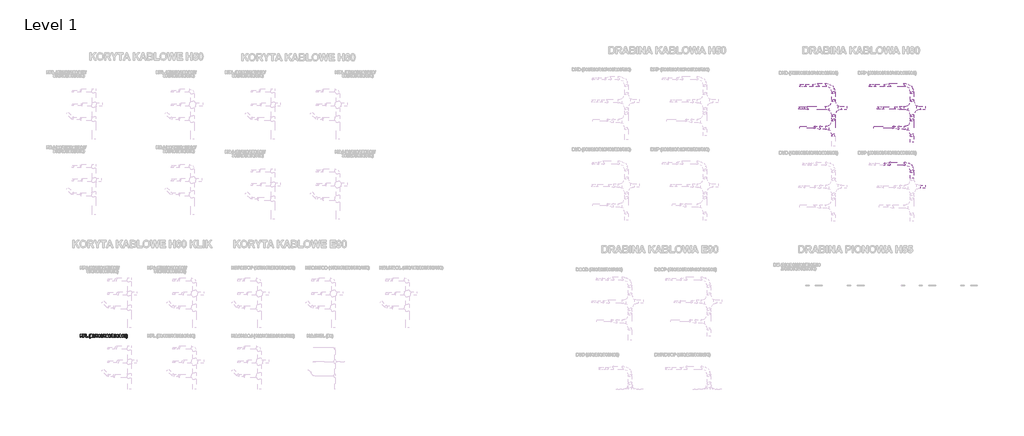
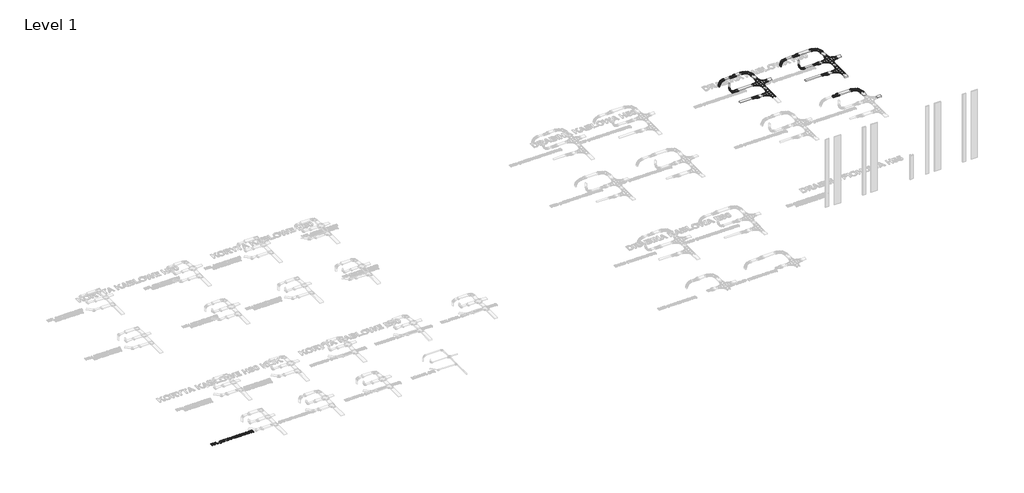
# One storey, part 6 of 42: 25 cable carrier segments, 18 cable carrier fittings, 1 proxy.
"""IFC4 building model written with IfcOpenShell, lengths in millimetres."""

from ifc_helpers import new_model, si_unit, frame, origin, origin_with_axes, place, context, project, spatial, polyline, outline, extrude, transform, mapped, element, save
from components import cable_carrier_fitting_1_5_mm_3523910d, cable_carrier_fitting_1_5_mm_19f47176, cable_carrier_fitting_1_5_mm_ccf48cd3, cable_carrier_fitting_1_5_mm_2af02ecb, cable_carrier_fitting_1_5_mm_74426db5, cable_carrier_fitting_1_5_mm_0168b917, cable_carrier_fitting_1_5_mm_cc8ef015, cable_carrier_fitting_1_5_mm_7721eeaa, cable_carrier_fitting_1_5_mm_8b0a73e9, cable_carrier_fitting_1_5_mm_c053843e

model = new_model("IFC4")

# Units and contexts
model_context = context("Model", 3, world=origin())
ifc_project = project(units=[si_unit("LENGTHUNIT", "METRE", prefix="MILLI")], contexts=[model_context])

# Site, building, storey
site = spatial("IfcSite", under=ifc_project)
building = spatial("IfcBuilding", under=site)
storey = spatial("IfcBuildingStorey", under=building, Name="Level 1", Elevation=0.0)

# Proxy
placement = place(None, origin())
element("IfcBuildingElementProxy", 1, Name="300mm Arial 2", ObjectType="300mm Arial 2", at=placement, inside=storey, context=model_context, shape_type="SweptSolid", body=[
    extrude(outline(polyline([(-29314.3228423, -1533.7239141), (-29314.3228423, -1278.6590641), (-29265.7390614, -1278.6590641), (-29265.7390614, -1394.9311857), (-29156.299034, -1278.6590641), (-29089.6228554, -1278.6590641), (-29186.157816, -1376.0796665), (-29085.574207, -1533.7239141), (-29142.381805, -1533.7239141), (-29217.7246216, -1408.0260329), (-29265.7390614, -1456.5465537), (-29265.7390614, -1533.7239141), (-29314.3228423, -1533.7239141)])), origin_with_axes(), (0.0, 0.0, 1.0), 10.0),
    extrude(outline(polyline([(-29059.2579923, -1533.7239141), (-29059.2579923, -1278.6590641), (-28885.1661106, -1278.6590641), (-28885.1661106, -1323.1941966), (-29010.6742114, -1323.1941966), (-29010.6742114, -1379.8752744), (-28901.3607042, -1379.8752744), (-28901.3607042, -1424.4104069), (-29010.6742114, -1424.4104069), (-29010.6742114, -1533.7239141), (-29059.2579923, -1533.7239141)])), origin_with_axes(), (0.0, 0.0, 1.0), 10.0),
    extrude(outline(polyline([(-28844.6796265, -1533.7239141), (-28844.6796265, -1278.6590641), (-28796.0958455, -1278.6590641), (-28796.0958455, -1489.1887815), (-28666.5390963, -1489.1887815), (-28666.5390963, -1533.7239141), (-28844.6796265, -1533.7239141)])), origin_with_axes(), (0.0, 0.0, 1.0), 10.0),
    extrude(outline(polyline([(-28456.0093789, -1602.5509371), (-28488.3985662, -1602.5509371), (-28511.0694158, -1562.8789271), (-28527.5882176, -1521.672859), (-28537.670301, -1480.3719007), (-28541.0309955, -1440.4152202), (-28536.919087, -1393.0175667), (-28524.5833613, -1348.2452087), (-28508.3887677, -1311.9655233), (-28488.3985662, -1278.6590641), (-28456.0093789, -1278.6590641), (-28473.5719728, -1325.8985672), (-28484.6345883, -1365.5152246), (-28490.494058, -1402.3958812), (-28492.4472146, -1441.4273823), (-28487.7659648, -1498.07683), (-28474.9241582, -1553.1447744), (-28456.0093789, -1602.5509371)])), origin_with_axes(), (0.0, 0.0, 1.0), 10.0),
    extrude(outline(polyline([(-28423.6201916, -1461.9236649), (-28379.085059, -1456.7995942), (-28374.9415204, -1471.8713205), (-28366.6860733, -1483.4321096), (-28355.5839202, -1490.7860999), (-28342.9002638, -1493.2374299), (-28328.7062718, -1490.635857), (-28316.8687197, -1482.8311383), (-28308.8742206, -1469.7916437), (-28306.2093876, -1451.4857432), (-28308.6844402, -1434.3264325), (-28316.1095982, -1422.0697821), (-28327.5043293, -1414.7157918), (-28341.8881017, -1412.2644617), (-28360.7079908, -1417.3252722), (-28377.4402956, -1432.5077038), (-28419.5715431, -1426.2449507), (-28391.2310043, -1282.7077125), (-28269.7715519, -1282.7077125), (-28269.7715519, -1331.2914934), (-28351.9464626, -1331.2914934), (-28361.751783, -1377.6611698), (-28346.2688658, -1370.2122893), (-28330.4380179, -1367.7293292), (-28302.3188895, -1373.4780936), (-28278.8177507, -1390.7243869), (-28262.9236426, -1417.1433993), (-28257.6256066, -1450.410321), (-28262.0380008, -1479.3360161), (-28275.2751833, -1505.0038144), (-28288.492597, -1519.3401417), (-28304.0427281, -1529.5803755), (-28321.9255765, -1535.7245157), (-28342.1411423, -1537.7725625), (-28373.1465142, -1532.6326768), (-28397.841688, -1517.2130198), (-28415.0563513, -1493.1109097), (-28423.6201916, -1461.9236649)])), origin_with_axes(), (0.0, 0.0, 1.0), 10.0),
    extrude(outline(polyline([(-28148.3120995, -1278.6590641), (-28131.1804652, -1280.3038275), (-28116.0336174, -1285.2381177), (-28102.8715563, -1293.4619348), (-28091.6942819, -1304.9752788), (-28081.0389035, -1323.1032602), (-28073.4279189, -1346.3632198), (-28068.8613282, -1374.7551575), (-28067.3391313, -1408.2790734), (-28068.8692357, -1441.7713593), (-28073.459549, -1470.1949271), (-28081.1100711, -1493.5497768), (-28091.8208021, -1511.8359086), (-28102.942724, -1523.1831947), (-28116.0652475, -1531.288399), (-28131.1883727, -1536.1515216), (-28148.3120995, -1537.7725625), (-28165.6196761, -1535.9933713), (-28181.1678303, -1530.6557977), (-28194.956562, -1521.7598417), (-28206.9858714, -1509.3055033), (-28216.7417698, -1492.2845742), (-28223.7102687, -1469.688846), (-28227.891368, -1441.5183187), (-28229.2850678, -1407.7729924), (-28227.7549633, -1374.4467644), (-28223.16465, -1346.1418093), (-28215.5141279, -1322.8581272), (-28204.8033969, -1304.595718), (-28193.681475, -1293.2484319), (-28180.5589515, -1285.1432276), (-28165.4358263, -1280.2801049), (-28148.3120995, -1278.6590641)]), holes=[polyline([(-28148.3120995, -1323.1941966), (-28164.5066932, -1328.5396777), (-28170.8327063, -1336.0122808), (-28175.513956, -1347.7391276), (-28179.4044541, -1371.8886828), (-28180.7012868, -1408.2790734), (-28179.5467894, -1444.1871055), (-28176.0832972, -1466.7630649), (-28170.8564288, -1480.0160625), (-28164.411803, -1487.955209), (-28148.3120995, -1493.2374299), (-28132.1175059, -1487.8919488), (-28125.7914927, -1480.4193458), (-28121.110243, -1468.6924989), (-28117.2197449, -1444.669464), (-28115.9229122, -1408.2790734), (-28117.0774096, -1372.4105789), (-28120.5409018, -1349.826712), (-28125.7677702, -1336.5341768), (-28132.212396, -1328.5396777), (-28148.3120995, -1323.1941966)])]), origin_with_axes(), (0.0, 0.0, 1.0), 10.0),
    extrude(outline(polyline([(-28052.0301794, -1533.7239141), (-27991.3004533, -1278.6590641), (-27953.9769757, -1278.6590641), (-28014.7067019, -1533.7239141), (-28052.0301794, -1533.7239141)])), origin_with_axes(), (0.0, 0.0, 1.0), 10.0),
    extrude(outline(polyline([(-27816.3229297, -1533.7239141), (-27864.9067106, -1533.7239141), (-27864.9067106, -1351.4082152), (-27892.9625789, -1375.2889149), (-27925.6364368, -1392.0212196), (-27925.6364368, -1343.4374387), (-27906.1681314, -1334.3517023), (-27885.0866926, -1319.6199992), (-27866.6305492, -1300.6024222), (-27855.0381301, -1278.6590641), (-27816.3229297, -1278.6590641), (-27816.3229297, -1533.7239141)])), origin_with_axes(), (0.0, 0.0, 1.0), 10.0),
    extrude(outline(polyline([(-27662.47429, -1278.6590641), (-27645.3426557, -1280.3038275), (-27630.1958079, -1285.2381177), (-27617.0337468, -1293.4619348), (-27605.8564724, -1304.9752788), (-27595.201094, -1323.1032602), (-27587.5901094, -1346.3632198), (-27583.0235187, -1374.7551575), (-27581.5013217, -1408.2790734), (-27583.0314262, -1441.7713593), (-27587.6217395, -1470.1949271), (-27595.2722616, -1493.5497768), (-27605.9829926, -1511.8359086), (-27617.1049145, -1523.1831947), (-27630.227438, -1531.288399), (-27645.3505632, -1536.1515216), (-27662.47429, -1537.7725625), (-27679.7818666, -1535.9933713), (-27695.3300208, -1530.6557977), (-27709.1187525, -1521.7598417), (-27721.1480619, -1509.3055033), (-27730.9039603, -1492.2845742), (-27737.8724592, -1469.688846), (-27742.0535585, -1441.5183187), (-27743.4472582, -1407.7729924), (-27741.9171538, -1374.4467644), (-27737.3268405, -1346.1418093), (-27729.6763184, -1322.8581272), (-27718.9655874, -1304.595718), (-27707.8436655, -1293.2484319), (-27694.721142, -1285.1432276), (-27679.5980168, -1280.2801049), (-27662.47429, -1278.6590641)]), holes=[polyline([(-27662.47429, -1323.1941966), (-27678.6688836, -1328.5396777), (-27684.9948968, -1336.0122808), (-27689.6761465, -1347.7391276), (-27693.5666446, -1371.8886828), (-27694.8634773, -1408.2790734), (-27693.7089799, -1444.1871055), (-27690.2454877, -1466.7630649), (-27685.0186193, -1480.0160625), (-27678.5739935, -1487.955209), (-27662.47429, -1493.2374299), (-27646.2796963, -1487.8919488), (-27639.9536832, -1480.4193458), (-27635.2724335, -1468.6924989), (-27631.3819354, -1444.669464), (-27630.0851027, -1408.2790734), (-27631.2396001, -1372.4105789), (-27634.7030923, -1349.826712), (-27639.9299607, -1336.5341768), (-27646.3745865, -1328.5396777), (-27662.47429, -1323.1941966)])]), origin_with_axes(), (0.0, 0.0, 1.0), 10.0),
    extrude(outline(polyline([(-27468.1391662, -1278.6590641), (-27451.0075318, -1280.3038275), (-27435.8606841, -1285.2381177), (-27422.698623, -1293.4619348), (-27411.5213486, -1304.9752788), (-27400.8659702, -1323.1032602), (-27393.2549856, -1346.3632198), (-27388.6883949, -1374.7551575), (-27387.1661979, -1408.2790734), (-27388.6963024, -1441.7713593), (-27393.2866157, -1470.1949271), (-27400.9371378, -1493.5497768), (-27411.6478688, -1511.8359086), (-27422.7697907, -1523.1831947), (-27435.8923142, -1531.288399), (-27451.0154394, -1536.1515216), (-27468.1391662, -1537.7725625), (-27485.4467428, -1535.9933713), (-27500.994897, -1530.6557977), (-27514.7836287, -1521.7598417), (-27526.8129381, -1509.3055033), (-27536.5688365, -1492.2845742), (-27543.5373354, -1469.688846), (-27547.7184347, -1441.5183187), (-27549.1121344, -1407.7729924), (-27547.58203, -1374.4467644), (-27542.9917167, -1346.1418093), (-27535.3411946, -1322.8581272), (-27524.6304636, -1304.595718), (-27513.5085417, -1293.2484319), (-27500.3860182, -1285.1432276), (-27485.262893, -1280.2801049), (-27468.1391662, -1278.6590641)]), holes=[polyline([(-27468.1391662, -1323.1941966), (-27484.3337598, -1328.5396777), (-27490.659773, -1336.0122808), (-27495.3410227, -1347.7391276), (-27499.2315208, -1371.8886828), (-27500.5283535, -1408.2790734), (-27499.3738561, -1444.1871055), (-27495.9103639, -1466.7630649), (-27490.6834955, -1480.0160625), (-27484.2388696, -1487.955209), (-27468.1391662, -1493.2374299), (-27451.9445725, -1487.8919488), (-27445.6185594, -1480.4193458), (-27440.9373097, -1468.6924989), (-27437.0468116, -1444.669464), (-27435.7499789, -1408.2790734), (-27436.9044763, -1372.4105789), (-27440.3679685, -1349.826712), (-27445.5948369, -1336.5341768), (-27452.0394627, -1328.5396777), (-27468.1391662, -1323.1941966)])]), origin_with_axes(), (0.0, 0.0, 1.0), 10.0),
    extrude(outline(polyline([(-27371.8572461, -1533.7239141), (-27311.1275199, -1278.6590641), (-27273.8040424, -1278.6590641), (-27334.5337686, -1533.7239141), (-27371.8572461, -1533.7239141)])), origin_with_axes(), (0.0, 0.0, 1.0), 10.0),
    extrude(outline(polyline([(-27136.1499964, -1533.7239141), (-27184.7337773, -1533.7239141), (-27184.7337773, -1351.4082152), (-27212.7896456, -1375.2889149), (-27245.4635035, -1392.0212196), (-27245.4635035, -1343.4374387), (-27225.9951981, -1334.3517023), (-27204.9137593, -1319.6199992), (-27186.4576159, -1300.6024222), (-27174.8651968, -1278.6590641), (-27136.1499964, -1278.6590641), (-27136.1499964, -1533.7239141)])), origin_with_axes(), (0.0, 0.0, 1.0), 10.0),
    extrude(outline(polyline([(-27063.2743249, -1461.9236649), (-27018.7391924, -1456.7995942), (-27014.5956538, -1471.8713205), (-27006.3402066, -1483.4321096), (-26995.2380536, -1490.7860999), (-26982.5543972, -1493.2374299), (-26968.3604052, -1490.635857), (-26956.5228531, -1482.8311383), (-26948.528354, -1469.7916437), (-26945.863521, -1451.4857432), (-26948.3385736, -1434.3264325), (-26955.7637316, -1422.0697821), (-26967.1584627, -1414.7157918), (-26981.5422351, -1412.2644617), (-27000.3621242, -1417.3252722), (-27017.094429, -1432.5077038), (-27059.2256765, -1426.2449507), (-27030.8851376, -1282.7077125), (-26909.4256853, -1282.7077125), (-26909.4256853, -1331.2914934), (-26991.600596, -1331.2914934), (-27001.4059164, -1377.6611698), (-26985.9229992, -1370.2122893), (-26970.0921513, -1367.7293292), (-26941.9730229, -1373.4780936), (-26918.4718841, -1390.7243869), (-26902.577776, -1417.1433993), (-26897.27974, -1450.410321), (-26901.6921342, -1479.3360161), (-26914.9293167, -1505.0038144), (-26928.1467304, -1519.3401417), (-26943.6968615, -1529.5803755), (-26961.5797099, -1535.7245157), (-26981.7952756, -1537.7725625), (-27012.8006476, -1532.6326768), (-27037.4958214, -1517.2130198), (-27054.7104846, -1493.1109097), (-27063.2743249, -1461.9236649)])), origin_with_axes(), (0.0, 0.0, 1.0), 10.0),
    extrude(outline(polyline([(-26787.9662329, -1278.6590641), (-26770.8345985, -1280.3038275), (-26755.6877508, -1285.2381177), (-26742.5256897, -1293.4619348), (-26731.3484152, -1304.9752788), (-26720.6930369, -1323.1032602), (-26713.0820523, -1346.3632198), (-26708.5154616, -1374.7551575), (-26706.9932646, -1408.2790734), (-26708.5233691, -1441.7713593), (-26713.1136824, -1470.1949271), (-26720.7642045, -1493.5497768), (-26731.4749355, -1511.8359086), (-26742.5968574, -1523.1831947), (-26755.7193809, -1531.288399), (-26770.8425061, -1536.1515216), (-26787.9662329, -1537.7725625), (-26805.2738095, -1535.9933713), (-26820.8219637, -1530.6557977), (-26834.6106954, -1521.7598417), (-26846.6400048, -1509.3055033), (-26856.3959032, -1492.2845742), (-26863.3644021, -1469.688846), (-26867.5455014, -1441.5183187), (-26868.9392011, -1407.7729924), (-26867.4090967, -1374.4467644), (-26862.8187834, -1346.1418093), (-26855.1682613, -1322.8581272), (-26844.4575303, -1304.595718), (-26833.3356084, -1293.2484319), (-26820.2130849, -1285.1432276), (-26805.0899597, -1280.2801049), (-26787.9662329, -1278.6590641)]), holes=[polyline([(-26787.9662329, -1323.1941966), (-26804.1608265, -1328.5396777), (-26810.4868397, -1336.0122808), (-26815.1680894, -1347.7391276), (-26819.0585875, -1371.8886828), (-26820.3554202, -1408.2790734), (-26819.2009228, -1444.1871055), (-26815.7374306, -1466.7630649), (-26810.5105622, -1480.0160625), (-26804.0659363, -1487.955209), (-26787.9662329, -1493.2374299), (-26771.7716392, -1487.8919488), (-26765.4456261, -1480.4193458), (-26760.7643764, -1468.6924989), (-26756.8738783, -1444.669464), (-26755.5770456, -1408.2790734), (-26756.731543, -1372.4105789), (-26760.1950352, -1349.826712), (-26765.4219035, -1336.5341768), (-26771.8665294, -1328.5396777), (-26787.9662329, -1323.1941966)])]), origin_with_axes(), (0.0, 0.0, 1.0), 10.0),
    extrude(outline(polyline([(-26691.6843128, -1533.7239141), (-26630.9545866, -1278.6590641), (-26593.6311091, -1278.6590641), (-26654.3608353, -1533.7239141), (-26691.6843128, -1533.7239141)])), origin_with_axes(), (0.0, 0.0, 1.0), 10.0),
    extrude(outline(polyline([(-26415.4905789, -1485.1401331), (-26415.4905789, -1533.7239141), (-26577.4365154, -1533.7239141), (-26572.2649997, -1509.2185207), (-26561.9377832, -1486.057405), (-26542.7541484, -1459.8756181), (-26511.0133774, -1426.3082109), (-26473.4368593, -1385.5686862), (-26466.4149848, -1370.8607057), (-26464.0743599, -1356.3425055), (-26466.0433315, -1342.1959586), (-26471.9502463, -1331.7659444), (-26481.3206532, -1325.3371336), (-26493.6801014, -1323.1941966), (-26505.9525669, -1325.3055035), (-26515.4415866, -1331.6394242), (-26521.8308599, -1342.86019), (-26524.8040861, -1359.6320323), (-26573.387867, -1355.2038231), (-26564.7844892, -1320.0549126), (-26557.1616433, -1306.8157532), (-26547.3246929, -1296.4667911), (-26522.7006867, -1283.1109958), (-26492.6046792, -1278.6590641), (-26460.4685324, -1283.6487069), (-26436.0501217, -1298.6176356), (-26420.6304646, -1321.0038146), (-26415.4905789, -1348.2452087), (-26421.1207306, -1380.3813554), (-26438.9600877, -1412.3277218), (-26469.1668005, -1444.2108281), (-26496.9063681, -1471.8555055), (-26506.015827, -1485.1401331), (-26415.4905789, -1485.1401331)])), origin_with_axes(), (0.0, 0.0, 1.0), 10.0),
    extrude(outline(polyline([(-26302.1284234, -1278.6590641), (-26284.996789, -1280.3038275), (-26269.8499413, -1285.2381177), (-26256.6878802, -1293.4619348), (-26245.5106057, -1304.9752788), (-26234.8552274, -1323.1032602), (-26227.2442428, -1346.3632198), (-26222.6776521, -1374.7551575), (-26221.1554551, -1408.2790734), (-26222.6855596, -1441.7713593), (-26227.2758729, -1470.1949271), (-26234.926395, -1493.5497768), (-26245.637126, -1511.8359086), (-26256.7590479, -1523.1831947), (-26269.8815714, -1531.288399), (-26285.0046966, -1536.1515216), (-26302.1284234, -1537.7725625), (-26319.436, -1535.9933713), (-26334.9841542, -1530.6557977), (-26348.7728859, -1521.7598417), (-26360.8021953, -1509.3055033), (-26370.5580937, -1492.2845742), (-26377.5265926, -1469.688846), (-26381.7076919, -1441.5183187), (-26383.1013916, -1407.7729924), (-26381.5712872, -1374.4467644), (-26376.9809739, -1346.1418093), (-26369.3304518, -1322.8581272), (-26358.6197208, -1304.595718), (-26347.4977989, -1293.2484319), (-26334.3752754, -1285.1432276), (-26319.2521502, -1280.2801049), (-26302.1284234, -1278.6590641)]), holes=[polyline([(-26302.1284234, -1323.1941966), (-26318.323017, -1328.5396777), (-26324.6490302, -1336.0122808), (-26329.3302799, -1347.7391276), (-26333.220778, -1371.8886828), (-26334.5176107, -1408.2790734), (-26333.3631133, -1444.1871055), (-26329.8996211, -1466.7630649), (-26324.6727527, -1480.0160625), (-26318.2281268, -1487.955209), (-26302.1284234, -1493.2374299), (-26285.9338297, -1487.8919488), (-26279.6078166, -1480.4193458), (-26274.9265669, -1468.6924989), (-26271.0360688, -1444.669464), (-26269.7392361, -1408.2790734), (-26270.8937335, -1372.4105789), (-26274.3572257, -1349.826712), (-26279.584094, -1336.5341768), (-26286.0287199, -1328.5396777), (-26302.1284234, -1323.1941966)])]), origin_with_axes(), (0.0, 0.0, 1.0), 10.0),
    extrude(outline(polyline([(-26107.7932996, -1278.6590641), (-26090.6616652, -1280.3038275), (-26075.5148175, -1285.2381177), (-26062.3527564, -1293.4619348), (-26051.1754819, -1304.9752788), (-26040.5201036, -1323.1032602), (-26032.909119, -1346.3632198), (-26028.3425282, -1374.7551575), (-26026.8203313, -1408.2790734), (-26028.3504358, -1441.7713593), (-26032.9407491, -1470.1949271), (-26040.5912712, -1493.5497768), (-26051.3020022, -1511.8359086), (-26062.4239241, -1523.1831947), (-26075.5464476, -1531.288399), (-26090.6695728, -1536.1515216), (-26107.7932996, -1537.7725625), (-26125.1008762, -1535.9933713), (-26140.6490304, -1530.6557977), (-26154.4377621, -1521.7598417), (-26166.4670715, -1509.3055033), (-26176.2229699, -1492.2845742), (-26183.1914688, -1469.688846), (-26187.3725681, -1441.5183187), (-26188.7662678, -1407.7729924), (-26187.2361634, -1374.4467644), (-26182.6458501, -1346.1418093), (-26174.995328, -1322.8581272), (-26164.284597, -1304.595718), (-26153.1626751, -1293.2484319), (-26140.0401516, -1285.1432276), (-26124.9170264, -1280.2801049), (-26107.7932996, -1278.6590641)]), holes=[polyline([(-26107.7932996, -1323.1941966), (-26123.9878932, -1328.5396777), (-26130.3139064, -1336.0122808), (-26134.9951561, -1347.7391276), (-26138.8856542, -1371.8886828), (-26140.1824869, -1408.2790734), (-26139.0279895, -1444.1871055), (-26135.5644973, -1466.7630649), (-26130.3376289, -1480.0160625), (-26123.893003, -1487.955209), (-26107.7932996, -1493.2374299), (-26091.5987059, -1487.8919488), (-26085.2726928, -1480.4193458), (-26080.5914431, -1468.6924989), (-26076.700945, -1444.669464), (-26075.4041123, -1408.2790734), (-26076.5586097, -1372.4105789), (-26080.0221019, -1349.826712), (-26085.2489702, -1336.5341768), (-26091.6935961, -1328.5396777), (-26107.7932996, -1323.1941966)])]), origin_with_axes(), (0.0, 0.0, 1.0), 10.0),
    extrude(outline(polyline([(-26011.5113795, -1533.7239141), (-25950.7816533, -1278.6590641), (-25913.4581758, -1278.6590641), (-25974.187902, -1533.7239141), (-26011.5113795, -1533.7239141)])), origin_with_axes(), (0.0, 0.0, 1.0), 10.0),
    extrude(outline(polyline([(-25897.2635821, -1462.4297459), (-25848.6798012, -1456.7995942), (-25844.9316384, -1472.4248467), (-25837.7357984, -1483.8749305), (-25827.883033, -1490.8968051), (-25816.1640936, -1493.2374299), (-25803.5911425, -1490.5567819), (-25793.2006659, -1482.5148377), (-25786.2262364, -1469.933979), (-25783.9014266, -1453.6365877), (-25786.0285485, -1438.2169306), (-25792.4099143, -1426.371471), (-25801.8593964, -1418.8277003), (-25813.1908674, -1416.3131101), (-25832.4852075, -1419.9189376), (-25828.2467787, -1379.8752744), (-25814.4165325, -1378.1356208), (-25804.302819, -1371.9044978), (-25798.1112336, -1362.0359173), (-25796.0473718, -1349.383891), (-25797.5893375, -1338.6375762), (-25802.2152346, -1330.3109614), (-25809.4031671, -1324.9733878), (-25818.6312387, -1323.1941966), (-25828.0174608, -1325.2580584), (-25835.9328847, -1331.4496438), (-25841.6974642, -1341.6108024), (-25844.6311528, -1355.5833839), (-25893.2149337, -1348.3084688), (-25887.6559497, -1326.5707061), (-25879.8354159, -1309.6881586), (-25869.1128236, -1296.7751842), (-25854.847664, -1286.9461413), (-25837.8544112, -1280.7308334), (-25818.9475394, -1278.6590641), (-25788.2980057, -1284.399921), (-25775.5115517, -1291.5759922), (-25764.4173061, -1301.6224918), (-25751.7020197, -1321.6443234), (-25747.4635909, -1344.1333001), (-25749.7370018, -1360.078807), (-25756.5572348, -1374.3241979), (-25767.9242896, -1386.8694727), (-25783.8381665, -1397.7146315), (-25763.9744852, -1405.2663097), (-25748.5390131, -1418.5588448), (-25738.6229875, -1436.4219244), (-25735.3176456, -1457.6852361), (-25741.1771153, -1488.4533825), (-25758.7555243, -1514.3346838), (-25771.1920708, -1524.5887557), (-25785.0638315, -1531.9130928), (-25817.1129956, -1537.7725625), (-25847.375061, -1532.5615092), (-25871.9911596, -1516.9283492), (-25889.2058229, -1492.8815917), (-25897.2635821, -1462.4297459)])), origin_with_axes(), (0.0, 0.0, 1.0), 10.0),
    extrude(outline(polyline([(-25621.9554901, -1278.6590641), (-25604.8238557, -1280.3038275), (-25589.677008, -1285.2381177), (-25576.5149469, -1293.4619348), (-25565.3376724, -1304.9752788), (-25554.682294, -1323.1032602), (-25547.0713095, -1346.3632198), (-25542.5047187, -1374.7551575), (-25540.9825218, -1408.2790734), (-25542.5126263, -1441.7713593), (-25547.1029396, -1470.1949271), (-25554.7534617, -1493.5497768), (-25565.4641927, -1511.8359086), (-25576.5861146, -1523.1831947), (-25589.7086381, -1531.288399), (-25604.8317633, -1536.1515216), (-25621.9554901, -1537.7725625), (-25639.2630667, -1535.9933713), (-25654.8112209, -1530.6557977), (-25668.5999526, -1521.7598417), (-25680.629262, -1509.3055033), (-25690.3851604, -1492.2845742), (-25697.3536593, -1469.688846), (-25701.5347586, -1441.5183187), (-25702.9284583, -1407.7729924), (-25701.3983539, -1374.4467644), (-25696.8080406, -1346.1418093), (-25689.1575185, -1322.8581272), (-25678.4467875, -1304.595718), (-25667.3248656, -1293.2484319), (-25654.2023421, -1285.1432276), (-25639.0792169, -1280.2801049), (-25621.9554901, -1278.6590641)]), holes=[polyline([(-25621.9554901, -1323.1941966), (-25638.1500837, -1328.5396777), (-25644.4760969, -1336.0122808), (-25649.1573466, -1347.7391276), (-25653.0478447, -1371.8886828), (-25654.3446774, -1408.2790734), (-25653.19018, -1444.1871055), (-25649.7266878, -1466.7630649), (-25644.4998194, -1480.0160625), (-25638.0551935, -1487.955209), (-25621.9554901, -1493.2374299), (-25605.7608964, -1487.8919488), (-25599.4348833, -1480.4193458), (-25594.7536336, -1468.6924989), (-25590.8631355, -1444.669464), (-25589.5663028, -1408.2790734), (-25590.7208002, -1372.4105789), (-25594.1842924, -1349.826712), (-25599.4111607, -1336.5341768), (-25605.8557866, -1328.5396777), (-25621.9554901, -1323.1941966)])]), origin_with_axes(), (0.0, 0.0, 1.0), 10.0),
    extrude(outline(polyline([(-25427.6203663, -1278.6590641), (-25410.4887319, -1280.3038275), (-25395.3418842, -1285.2381177), (-25382.1798231, -1293.4619348), (-25371.0025486, -1304.9752788), (-25360.3471702, -1323.1032602), (-25352.7361857, -1346.3632198), (-25348.1695949, -1374.7551575), (-25346.647398, -1408.2790734), (-25348.1775025, -1441.7713593), (-25352.7678157, -1470.1949271), (-25360.4183379, -1493.5497768), (-25371.1290689, -1511.8359086), (-25382.2509908, -1523.1831947), (-25395.3735143, -1531.288399), (-25410.4966395, -1536.1515216), (-25427.6203663, -1537.7725625), (-25444.9279429, -1535.9933713), (-25460.4760971, -1530.6557977), (-25474.2648288, -1521.7598417), (-25486.2941382, -1509.3055033), (-25496.0500366, -1492.2845742), (-25503.0185354, -1469.688846), (-25507.1996348, -1441.5183187), (-25508.5933345, -1407.7729924), (-25507.0632301, -1374.4467644), (-25502.4729168, -1346.1418093), (-25494.8223947, -1322.8581272), (-25484.1116637, -1304.595718), (-25472.9897418, -1293.2484319), (-25459.8672183, -1285.1432276), (-25444.7440931, -1280.2801049), (-25427.6203663, -1278.6590641)]), holes=[polyline([(-25427.6203663, -1323.1941966), (-25443.8149599, -1328.5396777), (-25450.1409731, -1336.0122808), (-25454.8222228, -1347.7391276), (-25458.7127209, -1371.8886828), (-25460.0095536, -1408.2790734), (-25458.8550562, -1444.1871055), (-25455.391564, -1466.7630649), (-25450.1646956, -1480.0160625), (-25443.7200697, -1487.955209), (-25427.6203663, -1493.2374299), (-25411.4257726, -1487.8919488), (-25405.0997595, -1480.4193458), (-25400.4185098, -1468.6924989), (-25396.5280117, -1444.669464), (-25395.231179, -1408.2790734), (-25396.3856764, -1372.4105789), (-25399.8491686, -1349.826712), (-25405.0760369, -1336.5341768), (-25411.5206628, -1328.5396777), (-25427.6203663, -1323.1941966)])]), origin_with_axes(), (0.0, 0.0, 1.0), 10.0),
    extrude(outline(polyline([(-25314.2582107, -1602.5509371), (-25296.2607033, -1556.5608215), (-25286.5819032, -1519.6485348), (-25279.9712195, -1479.9528023), (-25277.820375, -1441.4273823), (-25279.7656241, -1402.3958812), (-25285.6013712, -1365.5152246), (-25296.6560792, -1325.8985672), (-25314.2582107, -1278.6590641), (-25281.8690234, -1278.6590641), (-25259.6726248, -1315.9983567), (-25243.0589328, -1355.5201238), (-25232.6921787, -1396.4177988), (-25229.2365941, -1437.8848149), (-25232.0042248, -1474.3859108), (-25240.3071171, -1513.4174119), (-25257.0236068, -1558.2846601), (-25281.8690234, -1602.5509371), (-25314.2582107, -1602.5509371)])), origin_with_axes(), (0.0, 0.0, 1.0), 10.0),
])

# Cable carrier fittings
cable_carrier_fitting_1_5_mm_shape = cable_carrier_fitting_1_5_mm_3523910d(model_context)
element("IfcCableCarrierFitting", 2, ObjectType="BAKS_Łuk_drabiny : 1.5 mm", at=placement, inside=storey, context=model_context, shape_type="MappedRepresentation", body=[
    mapped(cable_carrier_fitting_1_5_mm_shape, transform((35775.8987392, 20268.4533524, 2750.0), x_axis=(0.0, 1.0, 0.0), y_axis=(-1.0, 0.0, 0.0), z_axis=(0.0, 0.0, 1.0))),
])
element("IfcCableCarrierFitting", 3, ObjectType="BAKS_Łuk_drabiny : 1.5 mm", at=placement, inside=storey, context=model_context, shape_type="MappedRepresentation", body=[
    mapped(cable_carrier_fitting_1_5_mm_shape, transform((42575.8987392, 20268.4533524, 2750.0), x_axis=(0.0, 1.0, 0.0), y_axis=(-1.0, 0.0, 0.0), z_axis=(0.0, 0.0, 1.0))),
])
element("IfcCableCarrierFitting", 4, ObjectType="BAKS_Łuk_drabiny : 1.5 mm", at=placement, inside=storey, context=model_context, shape_type="MappedRepresentation", body=[
    mapped(cable_carrier_fitting_1_5_mm_shape, transform((42575.8987392, 13468.4533524, 2750.0), x_axis=(0.0, 1.0, 0.0), y_axis=(-1.0, 0.0, 0.0), z_axis=(0.0, 0.0, 1.0))),
])
cable_carrier_fitting_1_5_mm_2_shape = cable_carrier_fitting_1_5_mm_19f47176(model_context)
element("IfcCableCarrierFitting", 5, ObjectType="BAKS_Czwórnik_drabiny : 1.5 mm", at=placement, inside=storey, context=model_context, shape_type="MappedRepresentation", body=[
    mapped(cable_carrier_fitting_1_5_mm_2_shape, transform((35775.8987392, 18281.6749022, 2750.0), x_axis=(0.0, 1.0, 0.0), y_axis=(-1.0, 0.0, 0.0), z_axis=(0.0, 0.0, 1.0))),
])
element("IfcCableCarrierFitting", 6, ObjectType="BAKS_Czwórnik_drabiny : 1.5 mm", at=placement, inside=storey, context=model_context, shape_type="MappedRepresentation", body=[
    mapped(cable_carrier_fitting_1_5_mm_2_shape, transform((42575.8987392, 18281.6749022, 2750.0), x_axis=(0.0, 1.0, 0.0), y_axis=(-1.0, 0.0, 0.0), z_axis=(0.0, 0.0, 1.0))),
])
cable_carrier_fitting_1_5_mm_3_shape = cable_carrier_fitting_1_5_mm_ccf48cd3(model_context)
element("IfcCableCarrierFitting", 7, ObjectType="BAKS_Redukcja_drabiny : 1.5 mm", at=placement, inside=storey, context=model_context, shape_type="MappedRepresentation", body=[
    mapped(cable_carrier_fitting_1_5_mm_3_shape, transform((34675.8987392, 16579.8296821, 2750.0), x_axis=(-1.0, 0.0, 0.0), y_axis=(0.0, -1.0, 0.0), z_axis=(0.0, 0.0, 1.0))),
])
element("IfcCableCarrierFitting", 8, ObjectType="BAKS_Redukcja_drabiny : 1.5 mm", at=placement, inside=storey, context=model_context, shape_type="MappedRepresentation", body=[
    mapped(cable_carrier_fitting_1_5_mm_3_shape, transform((41475.8987392, 16579.8296821, 2750.0), x_axis=(-1.0, 0.0, 0.0), y_axis=(0.0, -1.0, 0.0), z_axis=(0.0, 0.0, 1.0))),
])
cable_carrier_fitting_1_5_mm_4_shape = cable_carrier_fitting_1_5_mm_2af02ecb(model_context)
element("IfcCableCarrierFitting", 9, ObjectType="BAKS_Redukcja_drabiny : 1.5 mm", at=placement, inside=storey, context=model_context, shape_type="MappedRepresentation", body=[
    mapped(cable_carrier_fitting_1_5_mm_4_shape, transform((34537.0936106, 20268.4533524, 2750.0), x_axis=(-1.0, 0.0, 0.0), y_axis=(0.0, -1.0, 0.0), z_axis=(0.0, 0.0, 1.0))),
])
element("IfcCableCarrierFitting", 10, ObjectType="BAKS_Redukcja_drabiny : 1.5 mm", at=placement, inside=storey, context=model_context, shape_type="MappedRepresentation", body=[
    mapped(cable_carrier_fitting_1_5_mm_4_shape, transform((40709.31285, 20268.4533524, 2750.0), x_axis=(-1.0, 0.0, 0.0), y_axis=(0.0, -1.0, 0.0), z_axis=(0.0, 0.0, 1.0))),
])
cable_carrier_fitting_1_5_mm_5_shape = cable_carrier_fitting_1_5_mm_74426db5(model_context)
element("IfcCableCarrierFitting", 11, ObjectType="BAKS_Redukcja_drabiny : 1.5 mm", at=placement, inside=storey, context=model_context, shape_type="MappedRepresentation", body=[
    mapped(cable_carrier_fitting_1_5_mm_5_shape, transform((33604.2228336, 18281.6749022, 2750.0), x_axis=(-1.0, 0.0, 0.0), y_axis=(0.0, -1.0, 0.0), z_axis=(0.0, 0.0, 1.0))),
])
cable_carrier_fitting_1_5_mm_6_shape = cable_carrier_fitting_1_5_mm_0168b917(model_context)
element("IfcCableCarrierFitting", 12, ObjectType="BAKS_Redukcja_drabiny : 1.5 mm", at=placement, inside=storey, context=model_context, shape_type="MappedRepresentation", body=[
    mapped(cable_carrier_fitting_1_5_mm_6_shape, transform((40109.31285, 13418.4533524, 2750.0), x_axis=(1.0, 0.0, 0.0), y_axis=(0.0, 1.0, 0.0), z_axis=(0.0, 0.0, 1.0))),
])
cable_carrier_fitting_1_5_mm_7_shape = cable_carrier_fitting_1_5_mm_cc8ef015(model_context)
element("IfcCableCarrierFitting", 13, ObjectType="BAKS_Łuk_pionowy_drabiny_zew : 1.5 mm", at=placement, inside=storey, context=model_context, shape_type="MappedRepresentation", body=[
    mapped(cable_carrier_fitting_1_5_mm_7_shape, transform((32877.0936106, 20218.4533524, 2750.0), x_axis=(0.0, 0.0, 1.0), y_axis=(1.0, 0.0, 0.0), z_axis=(0.0, 1.0, 0.0))),
])
element("IfcCableCarrierFitting", 14, ObjectType="BAKS_Łuk_pionowy_drabiny_zew : 1.5 mm", at=placement, inside=storey, context=model_context, shape_type="MappedRepresentation", body=[
    mapped(cable_carrier_fitting_1_5_mm_7_shape, transform((38899.2228336, 20218.4533524, 2750.0), x_axis=(0.0, 0.0, 1.0), y_axis=(1.0, 0.0, 0.0), z_axis=(0.0, 1.0, 0.0))),
])
cable_carrier_fitting_1_5_mm_8_shape = cable_carrier_fitting_1_5_mm_7721eeaa(model_context)
element("IfcCableCarrierFitting", 15, ObjectType="BAKS_Łuk_pionowy_drabiny_wew : 1.5 mm", at=placement, inside=storey, context=model_context, shape_type="MappedRepresentation", body=[
    mapped(cable_carrier_fitting_1_5_mm_8_shape, transform((32804.2228336, 18281.6749022, 2750.0), x_axis=(0.0, 0.0, -1.0), y_axis=(1.0, 0.0, 0.0), z_axis=(0.0, -1.0, 0.0))),
])
element("IfcCableCarrierFitting", 16, ObjectType="BAKS_Łuk_pionowy_drabiny_wew : 1.5 mm", at=placement, inside=storey, context=model_context, shape_type="MappedRepresentation", body=[
    mapped(cable_carrier_fitting_1_5_mm_8_shape, transform((39604.2228336, 18281.6749022, 2750.0), x_axis=(0.0, 0.0, -1.0), y_axis=(1.0, 0.0, 0.0), z_axis=(0.0, -1.0, 0.0))),
])
cable_carrier_fitting_1_5_mm_9_shape = cable_carrier_fitting_1_5_mm_8b0a73e9(model_context)
element("IfcCableCarrierFitting", 17, ObjectType="BAKS_Trójnik_drabiny : 1.5 mm", at=placement, inside=storey, context=model_context, shape_type="MappedRepresentation", body=[
    mapped(cable_carrier_fitting_1_5_mm_9_shape, transform((35775.8987392, 16579.8296821, 2750.0), x_axis=(0.0, -1.0, 0.0), y_axis=(1.0, 0.0, 0.0), z_axis=(0.0, 0.0, 1.0))),
])
element("IfcCableCarrierFitting", 18, ObjectType="BAKS_Trójnik_drabiny : 1.5 mm", at=placement, inside=storey, context=model_context, shape_type="MappedRepresentation", body=[
    mapped(cable_carrier_fitting_1_5_mm_9_shape, transform((42575.8987392, 16579.8296821, 2750.0), x_axis=(0.0, -1.0, 0.0), y_axis=(1.0, 0.0, 0.0), z_axis=(0.0, 0.0, 1.0))),
])
cable_carrier_fitting_1_5_mm_10_shape = cable_carrier_fitting_1_5_mm_c053843e(model_context)
element("IfcCableCarrierFitting", 19, ObjectType="BAKS_Redukcja_drabiny : 1.5 mm", at=placement, inside=storey, context=model_context, shape_type="MappedRepresentation", body=[
    mapped(cable_carrier_fitting_1_5_mm_10_shape, transform((41024.2228336, 18281.6749022, 2750.0), x_axis=(1.0, 0.0, 0.0), y_axis=(0.0, 1.0, 0.0), z_axis=(0.0, 0.0, 1.0))),
])

# Cable carrier segments
element("IfcCableCarrierSegment", 20, ObjectType="BAKS - drabina kablowa H60 (DKD)", at=placement, inside=storey, context=model_context, shape_type="SweptSolid", body=[
    extrude(outline(polyline([(35925.8987392, 17299.8296821), (35625.8987392, 17299.8296821), (35625.8987392, 17561.6749022), (35925.8987392, 17561.6749022), (35925.8987392, 17299.8296821)])), frame((0.0, 0.0, 2720.0), z_axis=(0.0, 0.0, 1.0), x_axis=(1.0, 0.0, 0.0)), (0.0, 0.0, 1.0), 60.0),
])
element("IfcCableCarrierSegment", 21, ObjectType="BAKS - drabina kablowa H60 (DKD)", at=placement, inside=storey, context=model_context, shape_type="SweptSolid", body=[
    extrude(outline(polyline([(30.0, 4.4030651), (-30.0, 4.4030651), (-30.0, 204.4030651), (30.0, 204.4030651), (30.0, 4.4030651)])), frame((32877.0936106, 20114.0502873, 2200.0), z_axis=(0.0, -2.252406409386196e-11, 1.0), x_axis=(1.0, 0.0, 0.0)), (0.0, 0.0, 1.0), 20.0),
])
element("IfcCableCarrierSegment", 22, ObjectType="BAKS - drabina kablowa H60 (DKD)", at=placement, inside=storey, context=model_context, shape_type="SweptSolid", body=[
    extrude(outline(polyline([(33407.0936106, 20118.4533524), (33407.0936106, 20318.4533524), (33937.0936106, 20318.4533524), (33937.0936106, 20118.4533524), (33407.0936106, 20118.4533524)])), frame((0.0, 0.0, 2720.0), z_axis=(0.0, 0.0, 1.0), x_axis=(1.0, 0.0, 0.0)), (0.0, 0.0, 1.0), 60.0),
])
element("IfcCableCarrierSegment", 23, ObjectType="BAKS - drabina kablowa H60 (DKD)", at=placement, inside=storey, context=model_context, shape_type="SweptSolid", body=[
    extrude(outline(polyline([(36904.2228336, 18431.6749022), (36904.2228336, 18131.6749022), (36495.8987392, 18131.6749022), (36495.8987392, 18431.6749022), (36904.2228336, 18431.6749022)])), frame((0.0, 0.0, 2720.0), z_axis=(0.0, 0.0, 1.0), x_axis=(1.0, 0.0, 0.0)), (0.0, 0.0, 1.0), 60.0),
])
element("IfcCableCarrierSegment", 24, ObjectType="BAKS - drabina kablowa H60 (DKD)", at=placement, inside=storey, context=model_context, shape_type="SweptSolid", body=[
    extrude(outline(polyline([(32774.2228336, 18181.6749022), (32774.2228336, 18381.6749022), (32834.2228336, 18381.6749022), (32834.2228336, 18181.6749022), (32774.2228336, 18181.6749022)])), frame((0.0, 0.0, 3280.0), z_axis=(0.0, 0.0, 1.0), x_axis=(1.0, 0.0, 0.0)), (0.0, 0.0, 1.0), 420.0),
])
element("IfcCableCarrierSegment", 25, ObjectType="BAKS - drabina kablowa H60 (DKD)", at=placement, inside=storey, context=model_context, shape_type="SweptSolid", body=[
    extrude(outline(polyline([(34075.8987392, 16729.8296821), (34075.8987392, 16529.8296821), (32875.8987392, 16529.8296821), (32875.8987392, 16729.8296821), (34075.8987392, 16729.8296821)])), frame((0.0, 0.0, 2720.0), z_axis=(0.0, 0.0, 1.0), x_axis=(1.0, 0.0, 0.0)), (0.0, 0.0, 1.0), 60.0),
])
element("IfcCableCarrierSegment", 26, ObjectType="BAKS - drabina kablowa H60 (DKD)", at=placement, inside=storey, context=model_context, shape_type="SweptSolid", body=[
    extrude(outline(polyline([(35055.8987392, 16729.8296821), (35055.8987392, 16429.8296821), (34675.8987392, 16429.8296821), (34675.8987392, 16729.8296821), (35055.8987392, 16729.8296821)])), frame((0.0, 0.0, 2720.0), z_axis=(0.0, 0.0, 1.0), x_axis=(1.0, 0.0, 0.0)), (0.0, 0.0, 1.0), 60.0),
])
element("IfcCableCarrierSegment", 27, ObjectType="BAKS - drabina kablowa H60 (DKD)", at=placement, inside=storey, context=model_context, shape_type="SweptSolid", body=[
    extrude(outline(polyline([(35625.8987392, 19548.4533524), (35925.8987392, 19548.4533524), (35925.8987392, 19001.6749022), (35625.8987392, 19001.6749022), (35625.8987392, 19548.4533524)])), frame((0.0, 0.0, 2720.0), z_axis=(0.0, 0.0, 1.0), x_axis=(1.0, 0.0, 0.0)), (0.0, 0.0, 1.0), 60.0),
])
element("IfcCableCarrierSegment", 28, ObjectType="BAKS - drabina kablowa H60 (DKD)", at=placement, inside=storey, context=model_context, shape_type="SweptSolid", body=[
    extrude(outline(polyline([(35055.8987392, 18431.6749022), (35055.8987392, 18131.6749022), (33604.2228336, 18131.6749022), (33604.2228336, 18431.6749022), (35055.8987392, 18431.6749022)])), frame((0.0, 0.0, 2720.0), z_axis=(0.0, 0.0, 1.0), x_axis=(1.0, 0.0, 0.0)), (0.0, 0.0, 1.0), 60.0),
])
element("IfcCableCarrierSegment", 29, ObjectType="BAKS - drabina kablowa H60 (DKD)", at=placement, inside=storey, context=model_context, shape_type="SweptSolid", body=[
    extrude(outline(polyline([(35055.8987392, 20418.4533524), (35055.8987392, 20118.4533524), (34537.0936106, 20118.4533524), (34537.0936106, 20418.4533524), (35055.8987392, 20418.4533524)])), frame((0.0, 0.0, 2720.0), z_axis=(0.0, 0.0, 1.0), x_axis=(1.0, 0.0, 0.0)), (0.0, 0.0, 1.0), 60.0),
])
element("IfcCableCarrierSegment", 30, ObjectType="BAKS - drabina kablowa H60 (DKP)", at=placement, inside=storey, context=model_context, shape_type="SweptSolid", body=[
    extrude(outline(polyline([(42725.8987392, 17299.8296821), (42425.8987392, 17299.8296821), (42425.8987392, 17561.6749022), (42725.8987392, 17561.6749022), (42725.8987392, 17299.8296821)])), frame((0.0, 0.0, 2720.0), z_axis=(0.0, 0.0, 1.0), x_axis=(1.0, 0.0, 0.0)), (0.0, 0.0, 1.0), 60.0),
])
element("IfcCableCarrierSegment", 31, ObjectType="BAKS - drabina kablowa H60 (DKP)", at=placement, inside=storey, context=model_context, shape_type="SweptSolid", body=[
    extrude(outline(polyline([(38929.2228336, 20118.4533524), (38869.2228336, 20118.4533524), (38869.2228336, 20318.4533524), (38929.2228336, 20318.4533524), (38929.2228336, 20118.4533524)])), frame((0.0, 0.0, 2200.0), z_axis=(0.0, 0.0, 1.0), x_axis=(1.0, 0.0, 0.0)), (0.0, 0.0, 1.0), 20.0),
])
element("IfcCableCarrierSegment", 32, ObjectType="BAKS - drabina kablowa H60 (DKP)", at=placement, inside=storey, context=model_context, shape_type="SweptSolid", body=[
    extrude(outline(polyline([(40109.31285, 20318.4533524), (40109.31285, 20118.4533524), (39429.2228336, 20118.4533524), (39429.2228336, 20318.4533524), (40109.31285, 20318.4533524)])), frame((0.0, 0.0, 2720.0), z_axis=(0.0, 0.0, 1.0), x_axis=(1.0, 0.0, 0.0)), (0.0, 0.0, 1.0), 60.0),
])
element("IfcCableCarrierSegment", 33, ObjectType="BAKS - drabina kablowa H60 (DKP)", at=placement, inside=storey, context=model_context, shape_type="SweptSolid", body=[
    extrude(outline(polyline([(42725.8987392, 15308.4533524), (42425.8987392, 15308.4533524), (42425.8987392, 15859.8296821), (42725.8987392, 15859.8296821), (42725.8987392, 15308.4533524)])), frame((0.0, 0.0, 2720.0), z_axis=(0.0, 0.0, 1.0), x_axis=(1.0, 0.0, 0.0)), (0.0, 0.0, 1.0), 60.0),
])
element("IfcCableCarrierSegment", 34, ObjectType="BAKS - drabina kablowa H60 (DKP)", at=placement, inside=storey, context=model_context, shape_type="SweptSolid", body=[
    extrude(outline(polyline([(43704.2228336, 18431.6749022), (43704.2228336, 18131.6749022), (43295.8987392, 18131.6749022), (43295.8987392, 18431.6749022), (43704.2228336, 18431.6749022)])), frame((0.0, 0.0, 2720.0), z_axis=(0.0, 0.0, 1.0), x_axis=(1.0, 0.0, 0.0)), (0.0, 0.0, 1.0), 60.0),
])
element("IfcCableCarrierSegment", 35, ObjectType="BAKS - drabina kablowa H60 (DKP)", at=placement, inside=storey, context=model_context, shape_type="SweptSolid", body=[
    extrude(outline(polyline([(39574.2228336, 18181.6749022), (39574.2228336, 18381.6749022), (39634.2228336, 18381.6749022), (39634.2228336, 18181.6749022), (39574.2228336, 18181.6749022)])), frame((0.0, 0.0, 3280.0), z_axis=(0.0, 0.0, 1.0), x_axis=(1.0, 0.0, 0.0)), (0.0, 0.0, 1.0), 420.0),
])
element("IfcCableCarrierSegment", 36, ObjectType="BAKS - drabina kablowa H60 (DKP)", at=placement, inside=storey, context=model_context, shape_type="SweptSolid", body=[
    extrude(outline(polyline([(40134.2228336, 18181.6749022), (40134.2228336, 18381.6749022), (41024.2228336, 18381.6749022), (41024.2228336, 18181.6749022), (40134.2228336, 18181.6749022)])), frame((0.0, 0.0, 2720.0), z_axis=(0.0, 0.0, 1.0), x_axis=(1.0, 0.0, 0.0)), (0.0, 0.0, 1.0), 60.0),
])
element("IfcCableCarrierSegment", 37, ObjectType="BAKS - drabina kablowa H60 (DKP)", at=placement, inside=storey, context=model_context, shape_type="SweptSolid", body=[
    extrude(outline(polyline([(40875.8987392, 16729.8296821), (40875.8987392, 16529.8296821), (39275.8987392, 16529.8296821), (39275.8987392, 16729.8296821), (40875.8987392, 16729.8296821)])), frame((0.0, 0.0, 2720.0), z_axis=(0.0, 0.0, 1.0), x_axis=(1.0, 0.0, 0.0)), (0.0, 0.0, 1.0), 60.0),
])
element("IfcCableCarrierSegment", 38, ObjectType="BAKS - drabina kablowa H60 (DKP)", at=placement, inside=storey, context=model_context, shape_type="SweptSolid", body=[
    extrude(outline(polyline([(41855.8987392, 16729.8296821), (41855.8987392, 16429.8296821), (41475.8987392, 16429.8296821), (41475.8987392, 16729.8296821), (41855.8987392, 16729.8296821)])), frame((0.0, 0.0, 2720.0), z_axis=(0.0, 0.0, 1.0), x_axis=(1.0, 0.0, 0.0)), (0.0, 0.0, 1.0), 60.0),
])
element("IfcCableCarrierSegment", 39, ObjectType="BAKS - drabina kablowa H60 (DKP)", at=placement, inside=storey, context=model_context, shape_type="SweptSolid", body=[
    extrude(outline(polyline([(42725.8987392, 19001.6749022), (42425.8987392, 19001.6749022), (42425.8987392, 19548.4533524), (42725.8987392, 19548.4533524), (42725.8987392, 19001.6749022)])), frame((0.0, 0.0, 2720.0), z_axis=(0.0, 0.0, 1.0), x_axis=(1.0, 0.0, 0.0)), (0.0, 0.0, 1.0), 60.0),
])
element("IfcCableCarrierSegment", 40, ObjectType="BAKS - drabina kablowa H60 (DKP)", at=placement, inside=storey, context=model_context, shape_type="SweptSolid", body=[
    extrude(outline(polyline([(41855.8987392, 20418.4533524), (41855.8987392, 20118.4533524), (40709.31285, 20118.4533524), (40709.31285, 20418.4533524), (41855.8987392, 20418.4533524)])), frame((0.0, 0.0, 2720.0), z_axis=(0.0, 0.0, 1.0), x_axis=(1.0, 0.0, 0.0)), (0.0, 0.0, 1.0), 60.0),
])
element("IfcCableCarrierSegment", 41, ObjectType="BAKS - drabina kablowa H60 (DUP)", at=placement, inside=storey, context=model_context, shape_type="SweptSolid", body=[
    extrude(outline(polyline([(43704.2228336, 11631.6749022), (43704.2228336, 11331.6749022), (43295.8987392, 11331.6749022), (43295.8987392, 11631.6749022), (43704.2228336, 11631.6749022)])), frame((0.0, 0.0, 2720.0), z_axis=(0.0, 0.0, 1.0), x_axis=(1.0, 0.0, 0.0)), (0.0, 0.0, 1.0), 60.0),
])
element("IfcCableCarrierSegment", 42, ObjectType="BAKS - drabina kablowa H60 (DUP)", at=placement, inside=storey, context=model_context, shape_type="SweptSolid", body=[
    extrude(outline(polyline([(40709.31285, 13318.4533524), (40709.31285, 13618.4533524), (41855.8987392, 13618.4533524), (41855.8987392, 13318.4533524), (40709.31285, 13318.4533524)])), frame((0.0, 0.0, 2720.0), z_axis=(0.0, 0.0, 1.0), x_axis=(1.0, 0.0, 0.0)), (0.0, 0.0, 1.0), 60.0),
])
element("IfcCableCarrierSegment", 43, ObjectType="BAKS - drabina kablowa H60 (DUP)", at=placement, inside=storey, context=model_context, shape_type="SweptSolid", body=[
    extrude(outline(polyline([(42425.8987392, 12748.4533524), (42725.8987392, 12748.4533524), (42725.8987392, 12201.6749022), (42425.8987392, 12201.6749022), (42425.8987392, 12748.4533524)])), frame((0.0, 0.0, 2720.0), z_axis=(0.0, 0.0, 1.0), x_axis=(1.0, 0.0, 0.0)), (0.0, 0.0, 1.0), 60.0),
])
element("IfcCableCarrierSegment", 44, ObjectType="BAKS - drabina kablowa H60 (DKP)", at=placement, inside=storey, context=model_context, shape_type="SweptSolid", body=[
    extrude(outline(polyline([(41624.2228336, 18131.6749022), (41624.2228336, 18431.6749022), (41855.8987392, 18431.6749022), (41855.8987392, 18131.6749022), (41624.2228336, 18131.6749022)])), frame((0.0, 0.0, 2720.0), z_axis=(0.0, 0.0, 1.0), x_axis=(1.0, 0.0, 0.0)), (0.0, 0.0, 1.0), 60.0),
])

save(model, "model.ifc")
